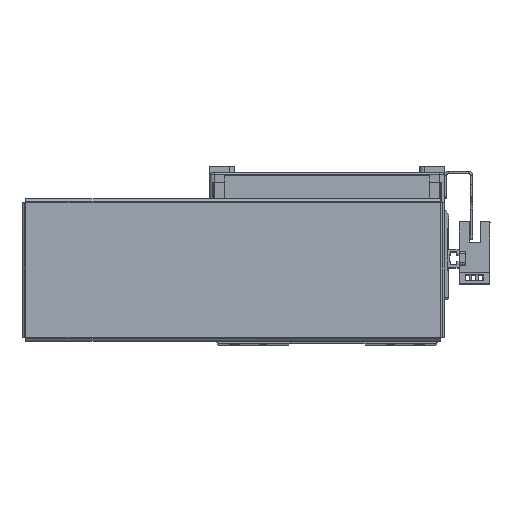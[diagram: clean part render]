
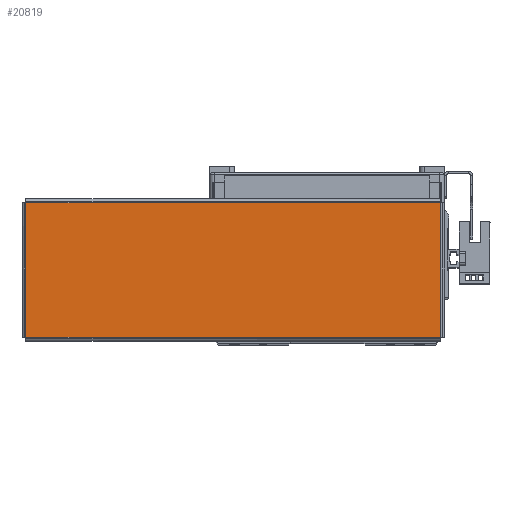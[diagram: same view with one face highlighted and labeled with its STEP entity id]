
A CAD part, top view. The second image highlights one B-rep face of the part: STEP entity #20819.
In plain terms, the highlighted planar face has unit normal (0, 0, 1) as drawn and (0, -1, 0) by its records, which use the part's own axes.
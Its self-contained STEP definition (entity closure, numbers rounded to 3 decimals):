
#2278 = FACE_OUTER_BOUND ( 'NONE', #37031, .T. ) ;
#3173 = CARTESIAN_POINT ( 'NONE',  ( -91.893, -1., -29.763 ) ) ;
#3195 = DIRECTION ( 'NONE',  ( 1., 0., 0. ) ) ;
#3290 = DIRECTION ( 'NONE',  ( 0., 0., 1. ) ) ;
#3301 = CARTESIAN_POINT ( 'NONE',  ( 91.863, -1., -29.793 ) ) ;
#3378 = CARTESIAN_POINT ( 'NONE',  ( -91.863, -1., 29.793 ) ) ;
#3389 = CARTESIAN_POINT ( 'NONE',  ( 91.893, -1., 29.763 ) ) ;
#3403 = DIRECTION ( 'NONE',  ( -1., 0., 0. ) ) ;
#3434 = DIRECTION ( 'NONE',  ( 0., 0., -1. ) ) ;
#18211 = AXIS2_PLACEMENT_3D ( 'NONE', #49411, #49426, #49418 ) ;
#20819 = ADVANCED_FACE ( 'NONE', ( #2278 ), #49457, .F. ) ;
#22464 = ORIENTED_EDGE ( 'NONE', *, *, #33800, .T. ) ;
#22508 = ORIENTED_EDGE ( 'NONE', *, *, #33792, .T. ) ;
#22546 = ORIENTED_EDGE ( 'NONE', *, *, #33755, .T. ) ;
#22558 = ORIENTED_EDGE ( 'NONE', *, *, #33717, .T. ) ;
#32576 = LINE ( 'NONE', #3173, #32582 ) ;
#32582 = VECTOR ( 'NONE', #3195, 1000. ) ;
#32640 = VECTOR ( 'NONE', #3290, 1000. ) ;
#32662 = LINE ( 'NONE', #3301, #32640 ) ;
#32680 = VECTOR ( 'NONE', #3434, 1000. ) ;
#32692 = LINE ( 'NONE', #3378, #32680 ) ;
#32725 = LINE ( 'NONE', #3389, #32729 ) ;
#32729 = VECTOR ( 'NONE', #3403, 1000. ) ;
#33717 = EDGE_CURVE ( 'NONE', #48268, #48234, #32576, .T. ) ;
#33755 = EDGE_CURVE ( 'NONE', #48234, #48253, #32662, .T. ) ;
#33792 = EDGE_CURVE ( 'NONE', #48253, #48297, #32725, .T. ) ;
#33800 = EDGE_CURVE ( 'NONE', #48297, #48268, #32692, .T. ) ;
#37031 = EDGE_LOOP ( 'NONE', ( #22558, #22546, #22508, #22464 ) ) ;
#41400 = CARTESIAN_POINT ( 'NONE',  ( -91.863, -1., -29.763 ) ) ;
#41421 = CARTESIAN_POINT ( 'NONE',  ( 91.863, -1., 29.763 ) ) ;
#41451 = CARTESIAN_POINT ( 'NONE',  ( 91.863, -1., -29.763 ) ) ;
#41465 = CARTESIAN_POINT ( 'NONE',  ( -91.863, -1., 29.763 ) ) ;
#48234 = VERTEX_POINT ( 'NONE', #41451 ) ;
#48253 = VERTEX_POINT ( 'NONE', #41421 ) ;
#48268 = VERTEX_POINT ( 'NONE', #41400 ) ;
#48297 = VERTEX_POINT ( 'NONE', #41465 ) ;
#49411 = CARTESIAN_POINT ( 'NONE',  ( 0., -1., 0. ) ) ;
#49418 = DIRECTION ( 'NONE',  ( 0., 0., 1. ) ) ;
#49426 = DIRECTION ( 'NONE',  ( 0., 1., 0. ) ) ;
#49457 = PLANE ( 'NONE',  #18211 ) ;
